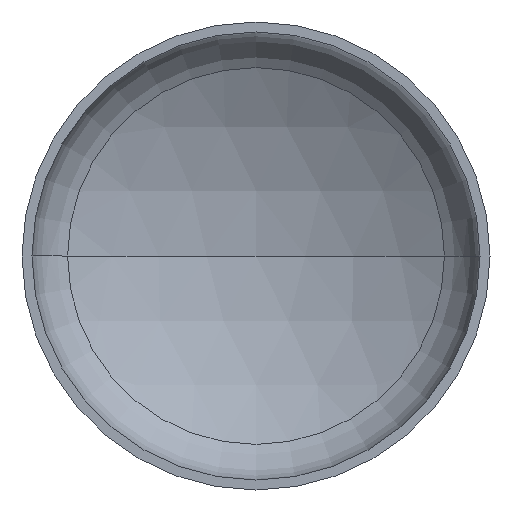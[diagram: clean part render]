
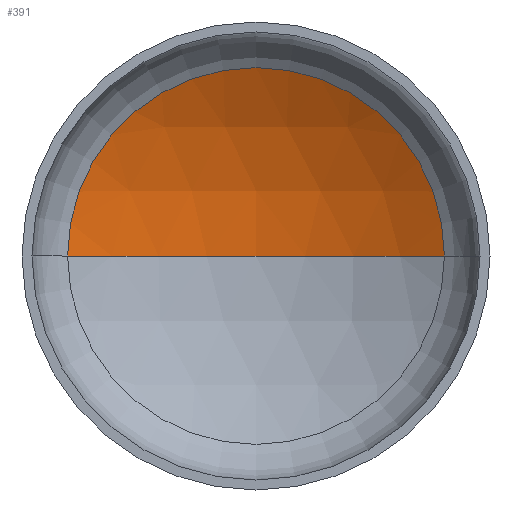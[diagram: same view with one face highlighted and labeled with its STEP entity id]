
A CAD part, front view. The second image highlights one B-rep face of the part: STEP entity #391.
In plain terms, the highlighted spherical face has radius 2400 mm.
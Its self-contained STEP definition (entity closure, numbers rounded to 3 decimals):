
#31 = AXIS2_PLACEMENT_3D ( 'NONE', #199, #375, #247 ) ;
#32 = AXIS2_PLACEMENT_3D ( 'NONE', #178, #376, #399 ) ;
#33 = VERTEX_POINT ( 'NONE', #265 ) ;
#35 = AXIS2_PLACEMENT_3D ( 'NONE', #360, #232, #382 ) ;
#39 = ORIENTED_EDGE ( 'NONE', *, *, #181, .F. ) ;
#43 = CARTESIAN_POINT ( 'NONE',  ( 1207.423, 517.547, 0. ) ) ;
#56 = ORIENTED_EDGE ( 'NONE', *, *, #132, .T. ) ;
#73 = ORIENTED_EDGE ( 'NONE', *, *, #161, .T. ) ;
#80 = VERTEX_POINT ( 'NONE', #43 ) ;
#116 = EDGE_LOOP ( 'NONE', ( #39, #73, #56 ) ) ;
#132 = EDGE_CURVE ( 'NONE', #80, #33, #373, .T. ) ;
#138 = CIRCLE ( 'NONE', #32, 2400. ) ;
#142 = VERTEX_POINT ( 'NONE', #155 ) ;
#155 = CARTESIAN_POINT ( 'NONE',  ( 0., 843.389, 0. ) ) ;
#156 = AXIS2_PLACEMENT_3D ( 'NONE', #235, #239, #276 ) ;
#161 = EDGE_CURVE ( 'NONE', #142, #80, #138, .T. ) ;
#178 = CARTESIAN_POINT ( 'NONE',  ( 0., -1556.611, 0. ) ) ;
#181 = EDGE_CURVE ( 'NONE', #142, #33, #259, .T. ) ;
#199 = CARTESIAN_POINT ( 'NONE',  ( 0., -1556.611, 0. ) ) ;
#232 = DIRECTION ( 'NONE',  ( 0., -1., 0. ) ) ;
#235 = CARTESIAN_POINT ( 'NONE',  ( 0., -1556.611, 0. ) ) ;
#239 = DIRECTION ( 'NONE',  ( 0., 0., -1. ) ) ;
#247 = DIRECTION ( 'NONE',  ( 1., 0., 0. ) ) ;
#259 = CIRCLE ( 'NONE', #31, 2400. ) ;
#265 = CARTESIAN_POINT ( 'NONE',  ( -1207.423, 517.547, 0. ) ) ;
#276 = DIRECTION ( 'NONE',  ( -1., 0., 0. ) ) ;
#286 = FACE_OUTER_BOUND ( 'NONE', #116, .T. ) ;
#321 = SPHERICAL_SURFACE ( 'NONE', #156, 2400. ) ;
#360 = CARTESIAN_POINT ( 'NONE',  ( 0., 517.547, 0. ) ) ;
#373 = CIRCLE ( 'NONE', #35, 1207.423 ) ;
#375 = DIRECTION ( 'NONE',  ( 0., 0., 1. ) ) ;
#376 = DIRECTION ( 'NONE',  ( 0., 0., -1. ) ) ;
#382 = DIRECTION ( 'NONE',  ( 1., 0., 0. ) ) ;
#391 = ADVANCED_FACE ( 'NONE', ( #286 ), #321, .F. ) ;
#399 = DIRECTION ( 'NONE',  ( -1., 0., 0. ) ) ;
